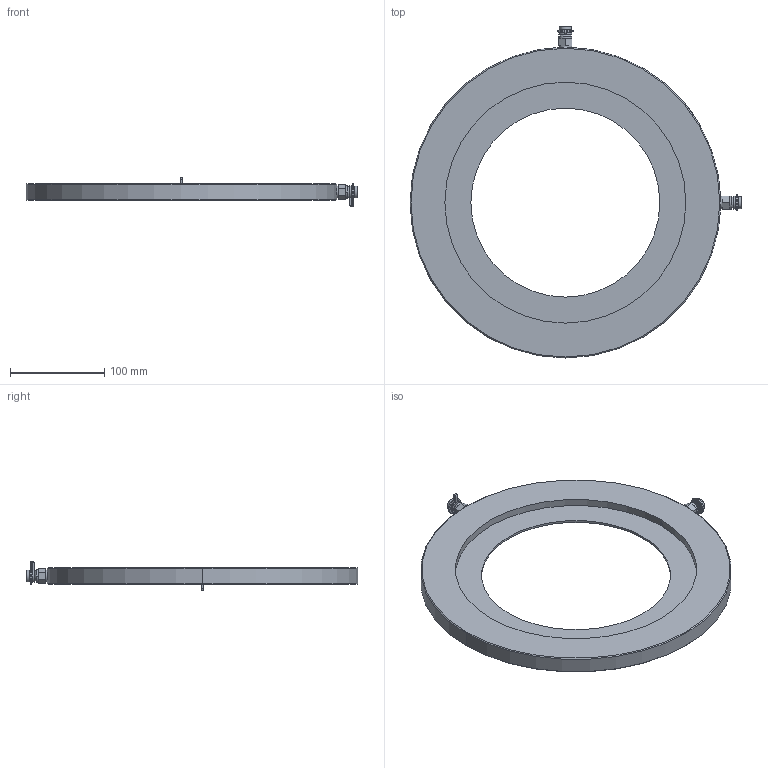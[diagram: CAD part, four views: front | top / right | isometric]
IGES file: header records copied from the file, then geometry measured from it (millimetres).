
Global section: file name: No Iges File Name specified; native system: AutoDesk Inventor R12.0; preprocessor: AutoDesk Inventor Iges Exporter R12.0; date: 20101223.135613; units: millimetre
Bounding box: 352.6 x 352.6 x 31.45 mm (x, y, z)
Volume: 664073.5 mm3; surface area: 143058.5 mm2
Topology: 1 solids, 1 shells, 125 faces, 290 edges, 186 vertices
Faces by surface type: plane 48, cylinder 29, bspline 18, cone 16, revolution 14
